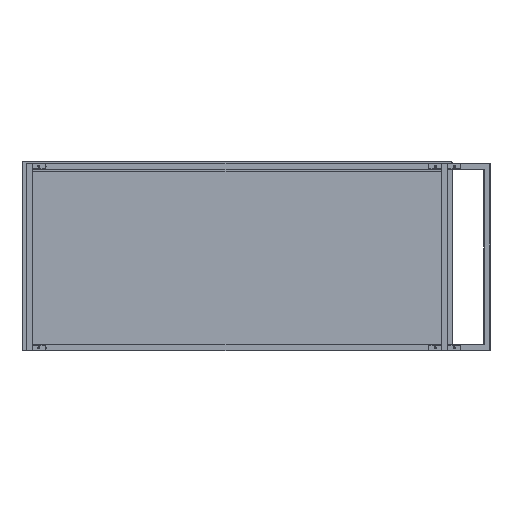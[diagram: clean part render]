
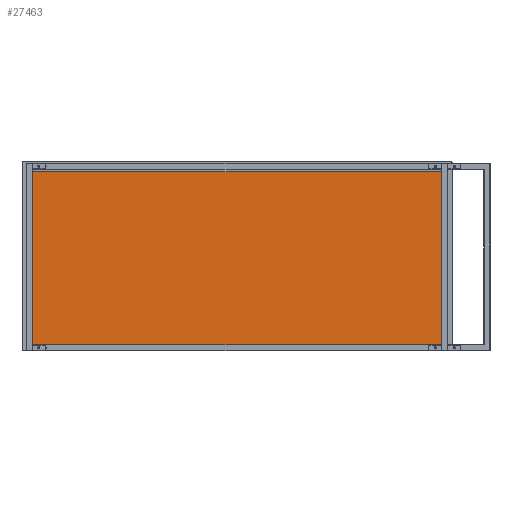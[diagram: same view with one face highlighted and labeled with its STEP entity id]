
A CAD part, front view. The second image highlights one B-rep face of the part: STEP entity #27463.
In plain terms, the highlighted planar face has unit normal (0, -1, 0).
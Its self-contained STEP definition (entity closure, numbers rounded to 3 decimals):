
#1858 = VECTOR ( 'NONE', #32185, 1000. ) ;
#3126 = EDGE_CURVE ( 'NONE', #9988, #15045, #17505, .T. ) ;
#4402 = DIRECTION ( 'NONE',  ( 0., 0., -1. ) ) ;
#5976 = CARTESIAN_POINT ( 'NONE',  ( 485., -125., -425. ) ) ;
#6072 = CARTESIAN_POINT ( 'NONE',  ( -485., -125., 0. ) ) ;
#6556 = CARTESIAN_POINT ( 'NONE',  ( -485., -125., -425. ) ) ;
#9211 = EDGE_CURVE ( 'NONE', #13846, #13273, #29365, .T. ) ;
#9988 = VERTEX_POINT ( 'NONE', #6556 ) ;
#11117 = ORIENTED_EDGE ( 'NONE', *, *, #3126, .F. ) ;
#11132 = VECTOR ( 'NONE', #28806, 1000. ) ;
#11188 = LINE ( 'NONE', #32025, #11132 ) ;
#11348 = LINE ( 'NONE', #6072, #1858 ) ;
#11527 = DIRECTION ( 'NONE',  ( 0., 0., 1. ) ) ;
#12066 = CARTESIAN_POINT ( 'NONE',  ( -485., -125., -425. ) ) ;
#13273 = VERTEX_POINT ( 'NONE', #21322 ) ;
#13846 = VERTEX_POINT ( 'NONE', #33109 ) ;
#15045 = VERTEX_POINT ( 'NONE', #23449 ) ;
#17356 = VECTOR ( 'NONE', #29530, 1000. ) ;
#17505 = LINE ( 'NONE', #32543, #21070 ) ;
#18409 = ORIENTED_EDGE ( 'NONE', *, *, #27693, .T. ) ;
#21070 = VECTOR ( 'NONE', #11527, 1000. ) ;
#21322 = CARTESIAN_POINT ( 'NONE',  ( 485., -125., 0. ) ) ;
#23015 = ORIENTED_EDGE ( 'NONE', *, *, #9211, .T. ) ;
#23449 = CARTESIAN_POINT ( 'NONE',  ( -485., -125., 0. ) ) ;
#23946 = EDGE_LOOP ( 'NONE', ( #26544, #11117, #18409, #23015 ) ) ;
#25292 = AXIS2_PLACEMENT_3D ( 'NONE', #12066, #27625, #4402 ) ;
#26544 = ORIENTED_EDGE ( 'NONE', *, *, #27113, .F. ) ;
#27113 = EDGE_CURVE ( 'NONE', #15045, #13273, #11348, .T. ) ;
#27283 = FACE_OUTER_BOUND ( 'NONE', #23946, .T. ) ;
#27463 = ADVANCED_FACE ( 'NONE', ( #27283 ), #32575, .T. ) ;
#27625 = DIRECTION ( 'NONE',  ( 0., -1., 0. ) ) ;
#27693 = EDGE_CURVE ( 'NONE', #9988, #13846, #11188, .T. ) ;
#28806 = DIRECTION ( 'NONE',  ( 1., 0., 0. ) ) ;
#29365 = LINE ( 'NONE', #5976, #17356 ) ;
#29530 = DIRECTION ( 'NONE',  ( 0., 0., 1. ) ) ;
#32025 = CARTESIAN_POINT ( 'NONE',  ( -485., -125., -425. ) ) ;
#32185 = DIRECTION ( 'NONE',  ( 1., 0., 0. ) ) ;
#32543 = CARTESIAN_POINT ( 'NONE',  ( -485., -125., -425. ) ) ;
#32575 = PLANE ( 'NONE',  #25292 ) ;
#33109 = CARTESIAN_POINT ( 'NONE',  ( 485., -125., -425. ) ) ;
